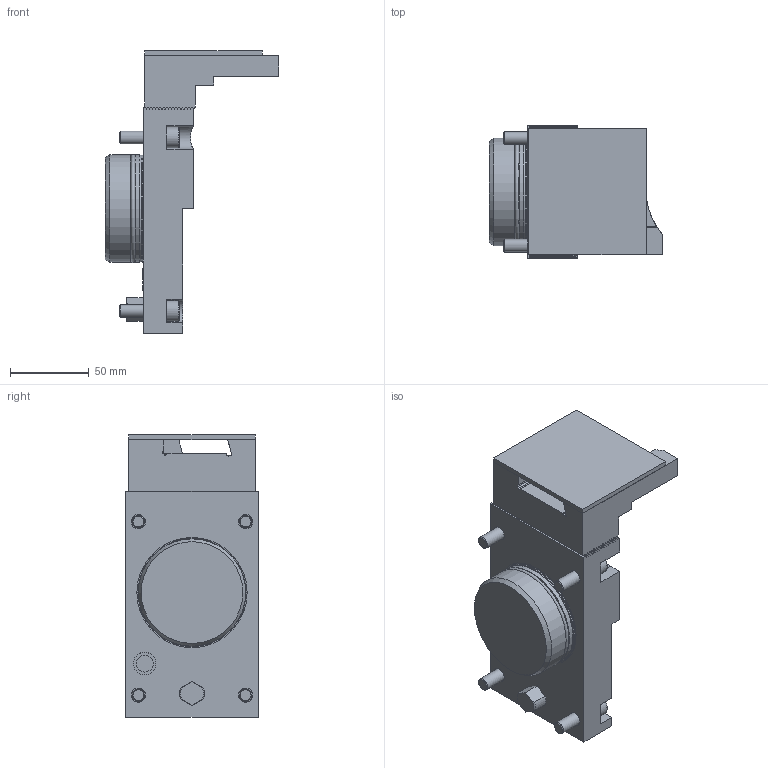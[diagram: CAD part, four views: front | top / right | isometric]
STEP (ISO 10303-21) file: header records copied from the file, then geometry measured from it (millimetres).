
FILE_DESCRIPTION(/* description */ (''),/* implementation_level */ '2;1');
FILE_NAME(/* name */ '193520',/* time_stamp */ '2021-06-10T10:40:59+02:00',/* author */ (''),/* organization */ (''),/* preprocessor_version */ 'ST-DEVELOPER v16.5',/* originating_system */ 'HiCAD 2017 2201.0 Build 268',/* authorisation */ '');
FILE_SCHEMA (('AUTOMOTIVE_DESIGN { 1 0 10303 214 1 1 1 1 }'));
Length unit declared in the file: millimetre
Products named in the file (20): Root; Baugruppe_Baugruppe; Baugruppe _Baugruppe; 173498_Kantsealring 10.82x1.68_260*; 114068_O-Ring 58x2.5_270*; 00021672_120*; 00021672_130*; SCHWERTBOLZEN 16-6_150*; Normteilgruppe _0; DIN 912      (Innensechskant)_Zylinderschraube 8x30_200*; GEWINDE; ROTATIONSTEIL_0_100*; ROTATIONSTEIL_0_140*; 00021672_110*
Assembly tree (19 placements, depth 5):
  Root
    Baugruppe_Baugruppe
      Baugruppe _Baugruppe
        173498_Kantsealring 10.82x1.68_260*
        114068_O-Ring 58x2.5_270*
      00021672_120*
      00021672_130*
      SCHWERTBOLZEN 16-6_150*
      Normteilgruppe _0
        DIN 912      (Innensechskant)_Zylinderschraube 8x30_200*
          GEWINDE
        DIN 912      (Innensechskant)_Zylinderschraube 8x30_200*
          GEWINDE
        DIN 912      (Innensechskant)_Zylinderschraube 8x30_200*
          GEWINDE
        DIN 912      (Innensechskant)_Zylinderschraube 8x30_200*
          GEWINDE
      ROTATIONSTEIL_0_100*
      ROTATIONSTEIL_0_140*
      00021672_110*
Bounding box: 110 x 84 x 179 mm (x, y, z)
Volume: 526205.1 mm3; surface area: 99076.9 mm2
Topology: 16 solids, 16 shells, 376 faces, 983 edges, 639 vertices
Faces by surface type: plane 253, cylinder 87, cone 26, torus 10
Full cylindrical faces by diameter (mm): 6.8 x8, 8 x8, 9 x4, 10.82 x1, 13 x4, 14.18 x1, 14.27 x1, 15 x1, 63.8 x1, 67.6 x1, 68 x2
Entity records: 20439 total; most frequent: CARTESIAN_POINT 2039, DIRECTION 1960, PRESENTATION_STYLE_ASSIGNMENT 1802, ORIENTED_EDGE 1794, COLOUR_RGB 1789, DRAUGHTING_PRE_DEFINED_CURVE_FONT 1786, CURVE_STYLE 1786, OVER_RIDING_STYLED_ITEM 1786
